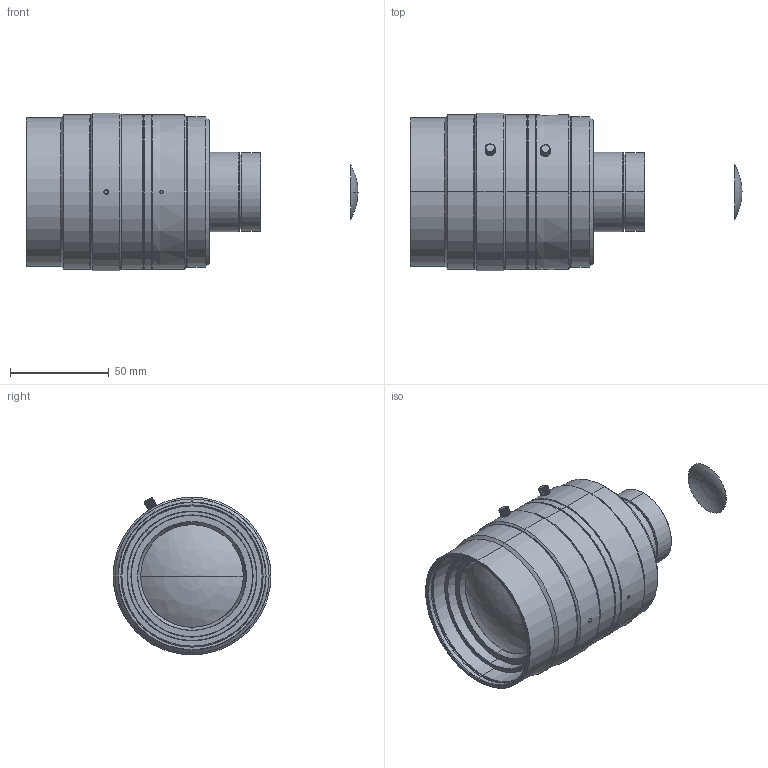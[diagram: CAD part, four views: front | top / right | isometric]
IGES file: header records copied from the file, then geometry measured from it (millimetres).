
Start section: SolidWorks IGES file using analytic representation for surfaces
Global section: file name: C:\Box\01_P&J_製品_治工具\02_P&C_製品・受託案件\04_MM番(MV)\M2201-M2300\M2257A(D-2400251)_VS-VNC3528\04_PAD_製品外観図\00 P3D 3D\VS-VNC3528_Drawing_M2257A-A00100.IGS; native system: SolidWorks 2024; preprocessor: SolidWorks 2024; author: matsuda_vst; date: 260317.133310; units: millimetre
Bounding box: 168.13 x 80 x 80 mm (x, y, z)
Surface area: 49935.9 mm2 (no closed solid volume)
Topology: 0 solids, 0 shells, 305 faces, 4660 edges, 4659 vertices
Faces by surface type: revolution 168, bspline 137
